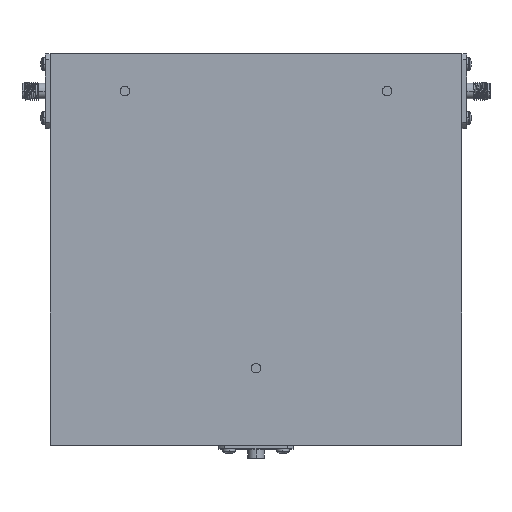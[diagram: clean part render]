
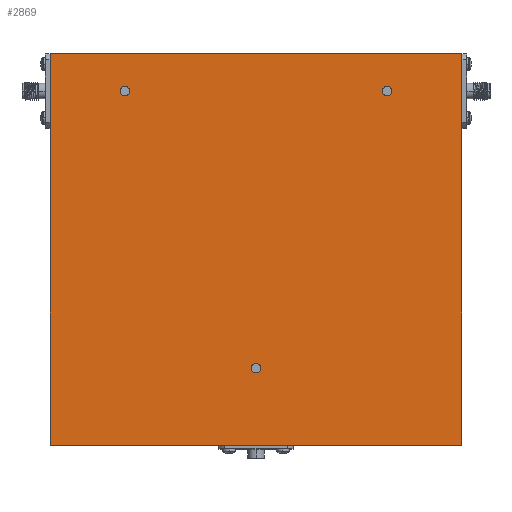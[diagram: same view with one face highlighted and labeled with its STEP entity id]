
A CAD part, top view. The second image highlights one B-rep face of the part: STEP entity #2869.
In plain terms, the highlighted planar face has unit normal (0, 0, 1).
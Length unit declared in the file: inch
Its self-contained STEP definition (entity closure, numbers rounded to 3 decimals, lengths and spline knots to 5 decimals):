
#31 = ORIENTED_EDGE ( 'NONE', *, *, #2327, .T. ) ;
#165 = EDGE_CURVE ( 'NONE', #2874, #1002, #4482, .T. ) ;
#232 = CARTESIAN_POINT ( 'NONE',  ( -4.25, -3.98, 0.625 ) ) ;
#239 = PLANE ( 'NONE',  #3141 ) ;
#302 = AXIS2_PLACEMENT_3D ( 'NONE', #1086, #4427, #736 ) ;
#323 = EDGE_CURVE ( 'NONE', #1002, #2874, #1605, .T. ) ;
#352 = LINE ( 'NONE', #462, #812 ) ;
#412 = FACE_BOUND ( 'NONE', #3776, .T. ) ;
#462 = CARTESIAN_POINT ( 'NONE',  ( 1.25, 1.25, 0.625 ) ) ;
#468 = DIRECTION ( 'NONE',  ( 0., 0., 1. ) ) ;
#474 = CARTESIAN_POINT ( 'NONE',  ( 0.25, 0.75, 0.625 ) ) ;
#497 = CARTESIAN_POINT ( 'NONE',  ( -1.5625, -2.95, 0.625 ) ) ;
#608 = AXIS2_PLACEMENT_3D ( 'NONE', #474, #4169, #1923 ) ;
#610 = DIRECTION ( 'NONE',  ( 1., 0., 0. ) ) ;
#701 = EDGE_CURVE ( 'NONE', #4651, #3005, #3116, .T. ) ;
#736 = DIRECTION ( 'NONE',  ( 1., 0., 0. ) ) ;
#793 = CARTESIAN_POINT ( 'NONE',  ( -4.25, 1.25, 0.625 ) ) ;
#812 = VECTOR ( 'NONE', #894, 39.37008 ) ;
#836 = EDGE_LOOP ( 'NONE', ( #4024, #1313 ) ) ;
#894 = DIRECTION ( 'NONE',  ( 0., 1., 0. ) ) ;
#943 = ORIENTED_EDGE ( 'NONE', *, *, #323, .F. ) ;
#959 = EDGE_CURVE ( 'NONE', #3005, #4651, #1944, .T. ) ;
#1002 = VERTEX_POINT ( 'NONE', #1929 ) ;
#1033 = CARTESIAN_POINT ( 'NONE',  ( 0., 0., 0.625 ) ) ;
#1083 = CARTESIAN_POINT ( 'NONE',  ( -4.25, -3.98, 0.625 ) ) ;
#1086 = CARTESIAN_POINT ( 'NONE',  ( -3.25, 0.75, 0.625 ) ) ;
#1176 = AXIS2_PLACEMENT_3D ( 'NONE', #3145, #4625, #2384 ) ;
#1313 = ORIENTED_EDGE ( 'NONE', *, *, #2545, .F. ) ;
#1486 = EDGE_LOOP ( 'NONE', ( #2309, #31, #4539, #3360 ) ) ;
#1569 = DIRECTION ( 'NONE',  ( 0., -1., 0. ) ) ;
#1570 = CIRCLE ( 'NONE', #1176, 0.0625 ) ;
#1605 = CIRCLE ( 'NONE', #4512, 0.0625 ) ;
#1606 = AXIS2_PLACEMENT_3D ( 'NONE', #3803, #468, #2684 ) ;
#1765 = DIRECTION ( 'NONE',  ( 1., 0., 0. ) ) ;
#1779 = DIRECTION ( 'NONE',  ( -1., 0., 0. ) ) ;
#1824 = VECTOR ( 'NONE', #1569, 39.37008 ) ;
#1843 = VERTEX_POINT ( 'NONE', #1939 ) ;
#1920 = EDGE_LOOP ( 'NONE', ( #4226, #4165 ) ) ;
#1923 = DIRECTION ( 'NONE',  ( 1., 0., 0. ) ) ;
#1929 = CARTESIAN_POINT ( 'NONE',  ( 0.3125, 0.75, 0.625 ) ) ;
#1930 = CARTESIAN_POINT ( 'NONE',  ( -1.4375, -2.95, 0.625 ) ) ;
#1939 = CARTESIAN_POINT ( 'NONE',  ( 1.25, -3.98, 0.625 ) ) ;
#1940 = LINE ( 'NONE', #2568, #2129 ) ;
#1944 = CIRCLE ( 'NONE', #3128, 0.0625 ) ;
#2010 = CARTESIAN_POINT ( 'NONE',  ( 1.25, 1.25, 0.625 ) ) ;
#2055 = LINE ( 'NONE', #232, #2757 ) ;
#2129 = VECTOR ( 'NONE', #1779, 39.37008 ) ;
#2240 = CIRCLE ( 'NONE', #1606, 0.0625 ) ;
#2282 = DIRECTION ( 'NONE',  ( 1., 0., 0. ) ) ;
#2309 = ORIENTED_EDGE ( 'NONE', *, *, #3337, .T. ) ;
#2327 = EDGE_CURVE ( 'NONE', #3884, #3886, #1940, .T. ) ;
#2351 = FACE_BOUND ( 'NONE', #836, .T. ) ;
#2384 = DIRECTION ( 'NONE',  ( 1., 0., 0. ) ) ;
#2511 = VERTEX_POINT ( 'NONE', #1930 ) ;
#2527 = EDGE_CURVE ( 'NONE', #3886, #3734, #2648, .T. ) ;
#2545 = EDGE_CURVE ( 'NONE', #3962, #2511, #2240, .T. ) ;
#2568 = CARTESIAN_POINT ( 'NONE',  ( -4.25, 1.25, 0.625 ) ) ;
#2648 = LINE ( 'NONE', #793, #1824 ) ;
#2670 = DIRECTION ( 'NONE',  ( 1., 0., 0. ) ) ;
#2684 = DIRECTION ( 'NONE',  ( 1., 0., 0. ) ) ;
#2697 = DIRECTION ( 'NONE',  ( 0., 0., 1. ) ) ;
#2757 = VECTOR ( 'NONE', #1765, 39.37008 ) ;
#2847 = CARTESIAN_POINT ( 'NONE',  ( 0.1875, 0.75, 0.625 ) ) ;
#2869 = ADVANCED_FACE ( 'NONE', ( #412, #2351, #4696, #4582 ), #239, .T. ) ;
#2874 = VERTEX_POINT ( 'NONE', #2847 ) ;
#2877 = DIRECTION ( 'NONE',  ( 0., 0., 1. ) ) ;
#3005 = VERTEX_POINT ( 'NONE', #4046 ) ;
#3029 = CARTESIAN_POINT ( 'NONE',  ( -3.25, 0.75, 0.625 ) ) ;
#3116 = CIRCLE ( 'NONE', #302, 0.0625 ) ;
#3128 = AXIS2_PLACEMENT_3D ( 'NONE', #3029, #2697, #2282 ) ;
#3141 = AXIS2_PLACEMENT_3D ( 'NONE', #1033, #2877, #610 ) ;
#3145 = CARTESIAN_POINT ( 'NONE',  ( -1.5, -2.95, 0.625 ) ) ;
#3337 = EDGE_CURVE ( 'NONE', #1843, #3884, #352, .T. ) ;
#3360 = ORIENTED_EDGE ( 'NONE', *, *, #3543, .T. ) ;
#3490 = CARTESIAN_POINT ( 'NONE',  ( -4.25, 1.25, 0.625 ) ) ;
#3531 = CARTESIAN_POINT ( 'NONE',  ( -3.1875, 0.75, 0.625 ) ) ;
#3543 = EDGE_CURVE ( 'NONE', #3734, #1843, #2055, .T. ) ;
#3603 = ORIENTED_EDGE ( 'NONE', *, *, #165, .F. ) ;
#3734 = VERTEX_POINT ( 'NONE', #1083 ) ;
#3776 = EDGE_LOOP ( 'NONE', ( #943, #3603 ) ) ;
#3803 = CARTESIAN_POINT ( 'NONE',  ( -1.5, -2.95, 0.625 ) ) ;
#3884 = VERTEX_POINT ( 'NONE', #2010 ) ;
#3886 = VERTEX_POINT ( 'NONE', #3490 ) ;
#3962 = VERTEX_POINT ( 'NONE', #497 ) ;
#4024 = ORIENTED_EDGE ( 'NONE', *, *, #4654, .F. ) ;
#4046 = CARTESIAN_POINT ( 'NONE',  ( -3.3125, 0.75, 0.625 ) ) ;
#4138 = DIRECTION ( 'NONE',  ( 0., 0., 1. ) ) ;
#4165 = ORIENTED_EDGE ( 'NONE', *, *, #959, .F. ) ;
#4169 = DIRECTION ( 'NONE',  ( 0., 0., 1. ) ) ;
#4226 = ORIENTED_EDGE ( 'NONE', *, *, #701, .F. ) ;
#4427 = DIRECTION ( 'NONE',  ( 0., 0., 1. ) ) ;
#4482 = CIRCLE ( 'NONE', #608, 0.0625 ) ;
#4512 = AXIS2_PLACEMENT_3D ( 'NONE', #4556, #4138, #2670 ) ;
#4539 = ORIENTED_EDGE ( 'NONE', *, *, #2527, .T. ) ;
#4556 = CARTESIAN_POINT ( 'NONE',  ( 0.25, 0.75, 0.625 ) ) ;
#4582 = FACE_OUTER_BOUND ( 'NONE', #1486, .T. ) ;
#4625 = DIRECTION ( 'NONE',  ( 0., 0., 1. ) ) ;
#4651 = VERTEX_POINT ( 'NONE', #3531 ) ;
#4654 = EDGE_CURVE ( 'NONE', #2511, #3962, #1570, .T. ) ;
#4696 = FACE_BOUND ( 'NONE', #1920, .T. ) ;
